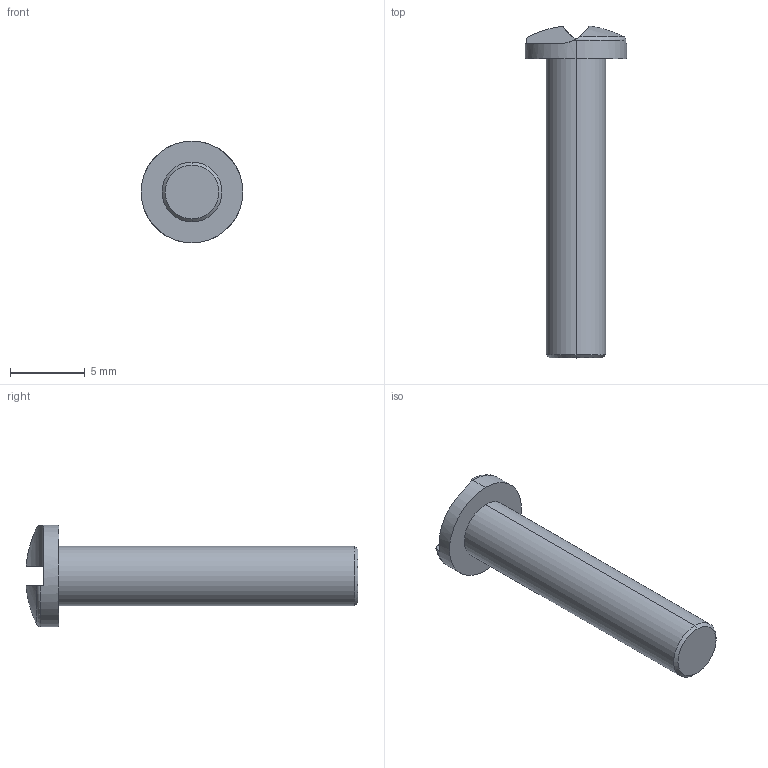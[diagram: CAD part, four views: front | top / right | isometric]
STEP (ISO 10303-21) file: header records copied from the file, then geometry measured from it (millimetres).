
FILE_DESCRIPTION (( 'STEP AP203' ), '1' );
FILE_NAME ('5951.STEP', '2017-09-21T09:12:33', ( 'utente' ), ( 'Microsoft' ), 'SwSTEP 2.0', 'SolidWorks 2014', '' );
FILE_SCHEMA (( 'CONFIG_CONTROL_DESIGN' ));
Length unit declared in the file: millimetre
Products named in the file (1): 5951
Bounding box: 6.8 x 22.19 x 6.8 mm (x, y, z)
Volume: 297.7 mm3; surface area: 355.6 mm2
Topology: 1 solids, 1 shells, 18 faces, 42 edges, 27 vertices
Faces by surface type: cylinder 6, plane 5, torus 3, cone 2, sphere 2
Entity records: 623 total; most frequent: CARTESIAN_POINT 129, DIRECTION 92, ORIENTED_EDGE 84, EDGE_CURVE 42, AXIS2_PLACEMENT_3D 40, VERTEX_POINT 27, CIRCLE 21, EDGE_LOOP 19
